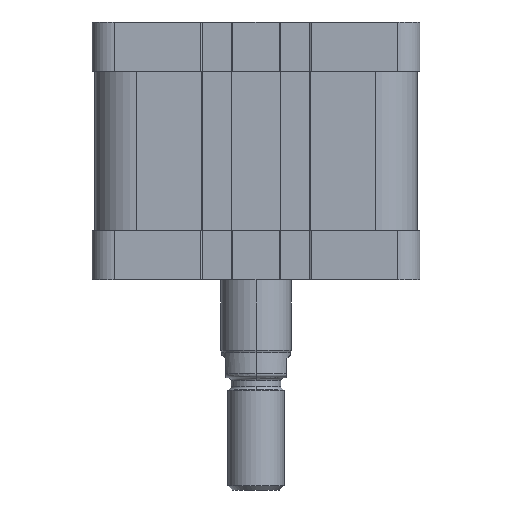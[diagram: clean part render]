
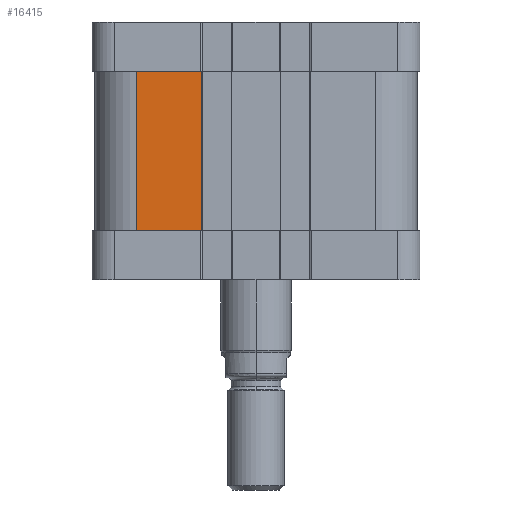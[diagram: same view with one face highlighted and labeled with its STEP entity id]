
A CAD part, left-side view. The second image highlights one B-rep face of the part: STEP entity #16415.
In plain terms, the highlighted planar face has unit normal (-1, 0, 0).
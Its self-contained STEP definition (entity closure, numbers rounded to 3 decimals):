
#9127=CARTESIAN_POINT('',(-31.75,-15.1,-11.6));
#9128=VERTEX_POINT('',#9127);
#9136=CARTESIAN_POINT('',(-31.75,8.0,-11.6));
#9137=VERTEX_POINT('',#9136);
#9138=CARTESIAN_POINT('',(-31.75,8.0,-11.6));
#9139=DIRECTION('',(0.0,-1.0,0.0));
#9140=VECTOR('',#9139,23.1);
#9141=LINE('',#9138,#9140);
#9142=EDGE_CURVE('',#9137,#9128,#9141,.T.);
#11948=CARTESIAN_POINT('',(-31.75,8.0,45.4));
#11949=VERTEX_POINT('',#11948);
#11957=CARTESIAN_POINT('',(-31.75,-15.1,45.4));
#11958=VERTEX_POINT('',#11957);
#11959=CARTESIAN_POINT('',(-31.75,-15.1,45.4));
#11960=DIRECTION('',(0.0,1.0,0.0));
#11961=VECTOR('',#11960,23.1);
#11962=LINE('',#11959,#11961);
#11963=EDGE_CURVE('',#11958,#11949,#11962,.T.);
#16333=CARTESIAN_POINT('',(-31.75,-15.1,45.4));
#16334=DIRECTION('',(0.0,0.0,-1.0));
#16335=VECTOR('',#16334,57.);
#16336=LINE('',#16333,#16335);
#16337=EDGE_CURVE('',#11958,#9128,#16336,.T.);
#16399=CARTESIAN_POINT('',(-31.75,-77.0,-11.6));
#16400=DIRECTION('',(-1.0,0.0,0.0));
#16401=DIRECTION('',(0.0,0.0,1.0));
#16402=AXIS2_PLACEMENT_3D('',#16399,#16400,#16401);
#16403=PLANE('',#16402);
#16404=ORIENTED_EDGE('',*,*,#16337,.F.);
#16405=ORIENTED_EDGE('',*,*,#11963,.T.);
#16406=CARTESIAN_POINT('',(-31.75,8.0,-11.6));
#16407=DIRECTION('',(0.0,0.0,1.0));
#16408=VECTOR('',#16407,57.);
#16409=LINE('',#16406,#16408);
#16410=EDGE_CURVE('',#9137,#11949,#16409,.T.);
#16411=ORIENTED_EDGE('',*,*,#16410,.F.);
#16412=ORIENTED_EDGE('',*,*,#9142,.T.);
#16413=EDGE_LOOP('',(#16404,#16405,#16411,#16412));
#16414=FACE_OUTER_BOUND('',#16413,.T.);
#16415=ADVANCED_FACE('',(#16414),#16403,.T.);
